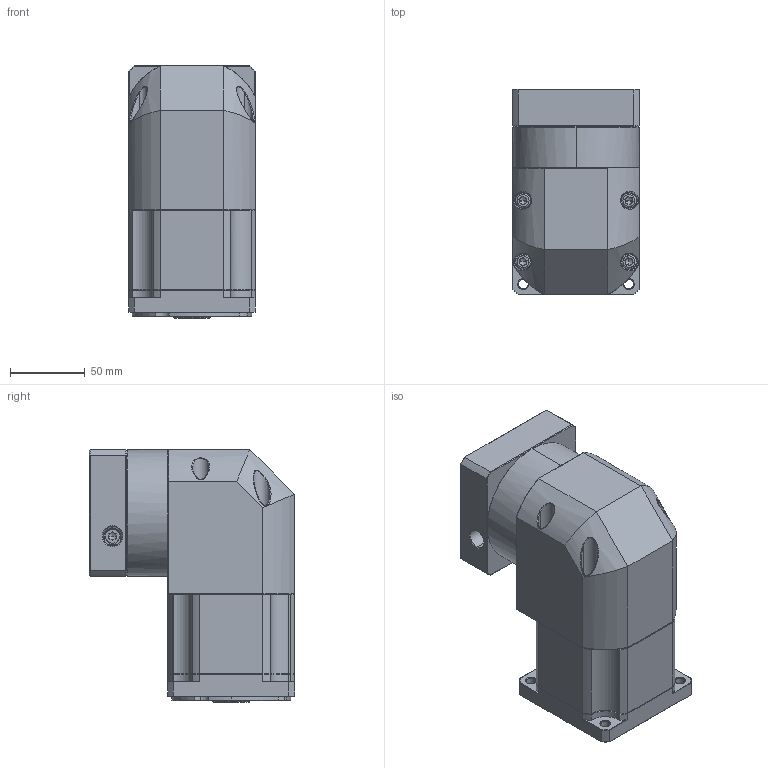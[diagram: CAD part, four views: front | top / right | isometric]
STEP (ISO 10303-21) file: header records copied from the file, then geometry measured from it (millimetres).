
FILE_DESCRIPTION (( 'STEP AP214' ), '1' );
FILE_NAME ('ZBR090-K15-L2-P2-16-80-100-M6.step', '2023-08-19T02:10:22', ( '' ), ( '' ), 'SwSTEP 2.0', 'SolidWorks 2016', '' );
FILE_SCHEMA (( 'AUTOMOTIVE_DESIGN' ));
Length unit declared in the file: millimetre
Products named in the file (1): ZBR090-K15-L2-P2-16-80-100-M6
Bounding box: 85 x 137.6 x 169.5 mm (x, y, z)
Volume: 1288966.5 mm3; surface area: 134436.5 mm2
Topology: 5 solids, 5 shells, 2346 faces, 6127 edges, 3874 vertices
Faces by surface type: plane 1148, bspline 414, cylinder 411, cone 349, torus 24
Entity records: 123767 total; most frequent: CARTESIAN_POINT 43737, ORIENTED_EDGE 12182, DIRECTION 9741, EDGE_CURVE 6091, VECTOR 3903, LINE 3903, VERTEX_POINT 3874, AXIS2_PLACEMENT_3D 2919
